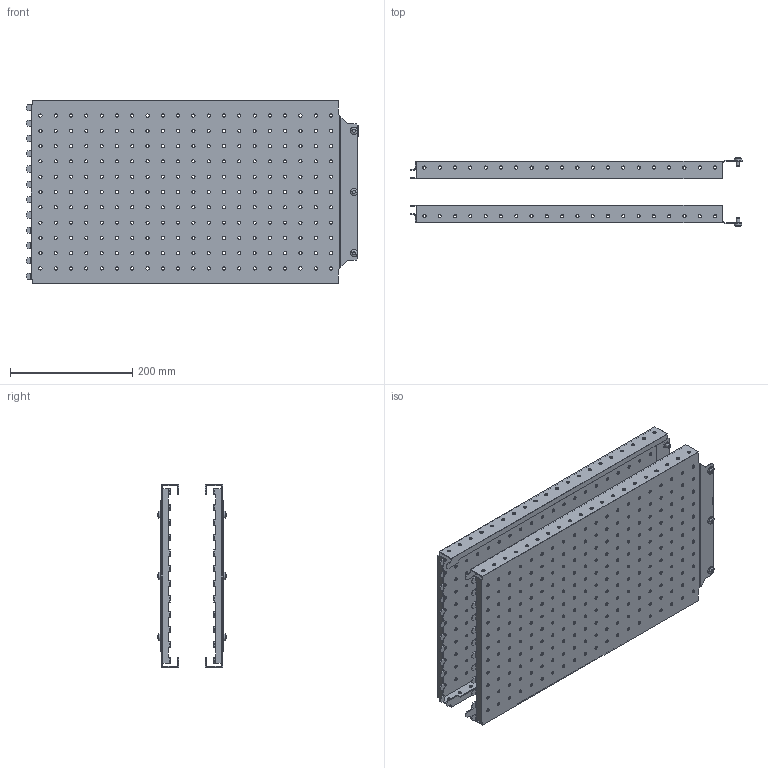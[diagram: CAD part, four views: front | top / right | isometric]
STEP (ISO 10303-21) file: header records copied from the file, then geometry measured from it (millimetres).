
FILE_DESCRIPTION (( 'STEP AP214' ), '1' );
FILE_NAME ('FO-00-MPSP-030-060 Ïàíåëü ìîíòàæíàÿ áîêîâàÿ ïåðôîðèðîâàííàÿ 300õ600ìì (2 øò.óïàê.).STEP', '2025-08-12T11:41:15', ( '' ), ( '' ), 'SwSTEP 2.0', 'SolidWorks 2023', '' );
FILE_SCHEMA (( 'AUTOMOTIVE_DESIGN' ));
Length unit declared in the file: millimetre
Products named in the file (2): FO-00-MPSP-030-060 Панель монтажная боковая перфорированная 300х600мм (2 шт.упак.); Панель монтажная боковая перфорированная 300х600 мм
Assembly tree (2 placements, depth 2):
  FO-00-MPSP-030-060 Панель монтажная боковая перфорированная 300х600мм (2 шт.упак.)
    Панель монтажная боковая перфорированная 300х600 мм  x2
Bounding box: 542.62 x 112.21 x 297.5 mm (x, y, z)
Volume: 577933.9 mm3; surface area: 787087.2 mm2
Topology: 2 solids, 2 shells, 1658 faces, 4826 edges, 3184 vertices
Faces by surface type: cylinder 1182, plane 432, torus 12, cone 12, sphere 12, bspline 8
Entity records: 29270 total; most frequent: CARTESIAN_POINT 5264, DIRECTION 5167, ORIENTED_EDGE 4826, EDGE_CURVE 2413, AXIS2_PLACEMENT_3D 1991, VERTEX_POINT 1592, EDGE_LOOP 1355, VECTOR 1185
